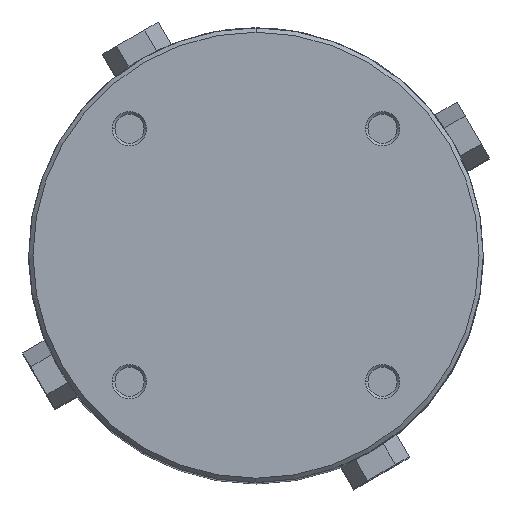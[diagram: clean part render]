
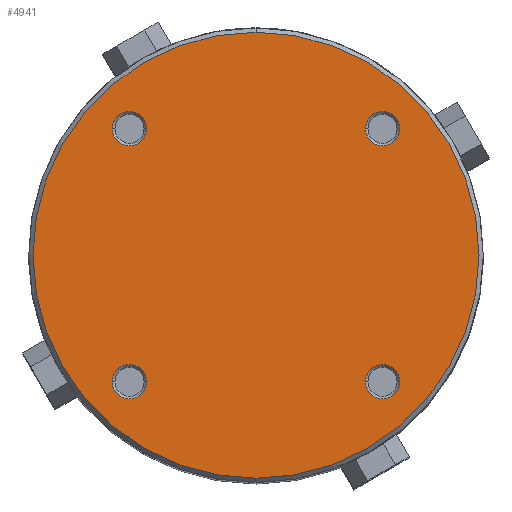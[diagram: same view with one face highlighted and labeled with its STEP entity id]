
A CAD part, top view. The second image highlights one B-rep face of the part: STEP entity #4941.
In plain terms, the highlighted planar face has unit normal (0, 0, 1).
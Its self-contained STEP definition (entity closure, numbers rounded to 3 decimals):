
#1788=CARTESIAN_POINT('',(29.5,29.5,208.));
#1789=DIRECTION('',(0.,0.,-1.));
#1790=DIRECTION('',(-1.,0.,0.));
#1791=AXIS2_PLACEMENT_3D('',#1788,#1789,#1790);
#1796=CARTESIAN_POINT('',(29.5,29.5,208.));
#1797=DIRECTION('',(0.,0.,-1.));
#1798=DIRECTION('',(1.,0.,0.));
#1799=AXIS2_PLACEMENT_3D('',#1796,#1797,#1798);
#1804=CARTESIAN_POINT('',(-29.5,29.5,208.));
#1805=DIRECTION('',(0.,0.,-1.));
#1806=DIRECTION('',(-1.,0.,0.));
#1807=AXIS2_PLACEMENT_3D('',#1804,#1805,#1806);
#1812=CARTESIAN_POINT('',(-29.5,29.5,208.));
#1813=DIRECTION('',(0.,0.,-1.));
#1814=DIRECTION('',(1.,0.,0.));
#1815=AXIS2_PLACEMENT_3D('',#1812,#1813,#1814);
#1820=CARTESIAN_POINT('',(-29.5,-29.5,208.));
#1821=DIRECTION('',(0.,0.,-1.));
#1822=DIRECTION('',(1.,0.,0.));
#1823=AXIS2_PLACEMENT_3D('',#1820,#1821,#1822);
#1828=CARTESIAN_POINT('',(-29.5,-29.5,208.));
#1829=DIRECTION('',(0.,0.,-1.));
#1830=DIRECTION('',(-1.,0.,0.));
#1831=AXIS2_PLACEMENT_3D('',#1828,#1829,#1830);
#1836=CARTESIAN_POINT('',(29.5,-29.5,208.));
#1837=DIRECTION('',(0.,0.,-1.));
#1838=DIRECTION('',(1.,0.,0.));
#1839=AXIS2_PLACEMENT_3D('',#1836,#1837,#1838);
#1844=CARTESIAN_POINT('',(29.5,-29.5,208.));
#1845=DIRECTION('',(0.,0.,-1.));
#1846=DIRECTION('',(-1.,0.,0.));
#1847=AXIS2_PLACEMENT_3D('',#1844,#1845,#1846);
#1852=CARTESIAN_POINT('',(0.,0.,
208.));
#1853=DIRECTION('',(0.,0.,1.));
#1854=DIRECTION('',(0.,1.,0.));
#1855=AXIS2_PLACEMENT_3D('',#1852,#1853,#1854);
#1860=CARTESIAN_POINT('',(0.,0.,
208.));
#1861=DIRECTION('',(0.,0.,1.));
#1862=DIRECTION('',(0.,-1.,0.));
#1863=AXIS2_PLACEMENT_3D('',#1860,#1861,#1862);
#2422=CARTESIAN_POINT('',(25.5,29.5,208.));
#2423=CARTESIAN_POINT('',(33.5,29.5,208.));
#2424=VERTEX_POINT('',#2422);
#2425=VERTEX_POINT('',#2423);
#2430=CARTESIAN_POINT('',(-33.5,29.5,208.));
#2431=CARTESIAN_POINT('',(-25.5,29.5,208.));
#2432=VERTEX_POINT('',#2430);
#2433=VERTEX_POINT('',#2431);
#2438=CARTESIAN_POINT('',(-25.5,-29.5,208.));
#2439=CARTESIAN_POINT('',(-33.5,-29.5,208.));
#2440=VERTEX_POINT('',#2438);
#2441=VERTEX_POINT('',#2439);
#2446=CARTESIAN_POINT('',(33.5,-29.5,208.));
#2447=CARTESIAN_POINT('',(25.5,-29.5,208.));
#2448=VERTEX_POINT('',#2446);
#2449=VERTEX_POINT('',#2447);
#2494=CARTESIAN_POINT('',(0.,52.,208.));
#2495=CARTESIAN_POINT('',(0.,-52.,
208.));
#2496=VERTEX_POINT('',#2494);
#2497=VERTEX_POINT('',#2495);
#4908=CARTESIAN_POINT('',(0.,0.,208.));
#4909=DIRECTION('',(0.,0.,1.));
#4910=DIRECTION('',(0.,1.,0.));
#4911=AXIS2_PLACEMENT_3D('',#4908,#4909,#4910);
#4912=PLANE('',#4911);
#4913=ORIENTED_EDGE('',*,*,#4890,.F.);
#4914=ORIENTED_EDGE('',*,*,#4864,.F.);
#4915=EDGE_LOOP('',(#4913,#4914));
#4916=FACE_OUTER_BOUND('',#4915,.F.);
#4918=ORIENTED_EDGE('',*,*,#4917,.F.);
#4920=ORIENTED_EDGE('',*,*,#4919,.F.);
#4921=EDGE_LOOP('',(#4918,#4920));
#4922=FACE_BOUND('',#4921,.F.);
#4924=ORIENTED_EDGE('',*,*,#4923,.F.);
#4926=ORIENTED_EDGE('',*,*,#4925,.F.);
#4927=EDGE_LOOP('',(#4924,#4926));
#4928=FACE_BOUND('',#4927,.F.);
#4930=ORIENTED_EDGE('',*,*,#4929,.F.);
#4932=ORIENTED_EDGE('',*,*,#4931,.F.);
#4933=EDGE_LOOP('',(#4930,#4932));
#4934=FACE_BOUND('',#4933,.F.);
#4936=ORIENTED_EDGE('',*,*,#4935,.F.);
#4938=ORIENTED_EDGE('',*,*,#4937,.F.);
#4939=EDGE_LOOP('',(#4936,#4938));
#4940=FACE_BOUND('',#4939,.F.);
#4941=ADVANCED_FACE('',(#4916,#4922,#4928,#4934,#4940),#4912,.T.);
#1792=CIRCLE('',#1791,4.);
#1800=CIRCLE('',#1799,4.);
#1808=CIRCLE('',#1807,4.);
#1816=CIRCLE('',#1815,4.);
#1824=CIRCLE('',#1823,4.);
#1832=CIRCLE('',#1831,4.);
#1840=CIRCLE('',#1839,4.);
#1848=CIRCLE('',#1847,4.);
#1856=CIRCLE('',#1855,52.);
#1864=CIRCLE('',#1863,52.);
#4864=EDGE_CURVE('',#2497,#2496,#1864,.T.);
#4890=EDGE_CURVE('',#2496,#2497,#1856,.T.);
#4917=EDGE_CURVE('',#2432,#2433,#1808,.T.);
#4919=EDGE_CURVE('',#2433,#2432,#1816,.T.);
#4923=EDGE_CURVE('',#2440,#2441,#1824,.T.);
#4925=EDGE_CURVE('',#2441,#2440,#1832,.T.);
#4929=EDGE_CURVE('',#2448,#2449,#1840,.T.);
#4931=EDGE_CURVE('',#2449,#2448,#1848,.T.);
#4935=EDGE_CURVE('',#2424,#2425,#1792,.T.);
#4937=EDGE_CURVE('',#2425,#2424,#1800,.T.);
